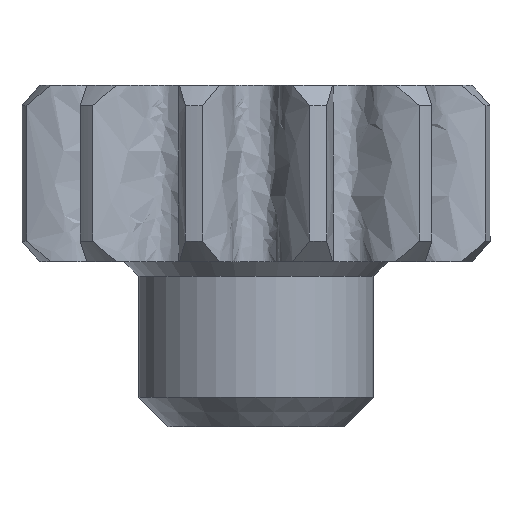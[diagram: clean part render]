
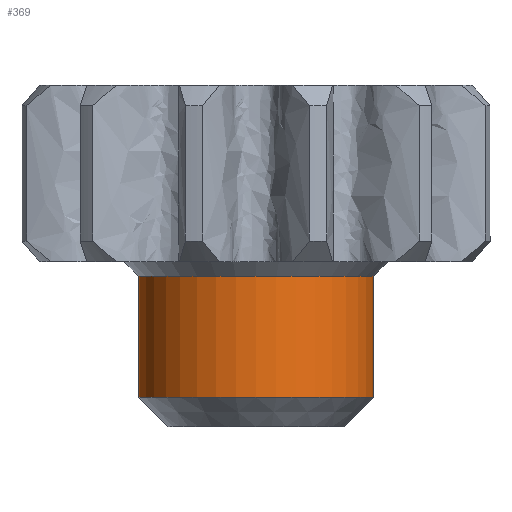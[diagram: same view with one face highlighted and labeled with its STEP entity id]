
A CAD part, front view. The second image highlights one B-rep face of the part: STEP entity #369.
In plain terms, the highlighted cylindrical face has radius 4 mm (diameter 8 mm), a partial arc.
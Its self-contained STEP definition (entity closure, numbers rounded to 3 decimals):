
#317 = AXIS2_PLACEMENT_3D ( 'NONE', #7514, #6473, #5422 ) ;
#334 = CARTESIAN_POINT ( 'NONE',  ( -4., 0., -0.62 ) ) ;
#369 = ADVANCED_FACE ( 'NONE', ( #1009 ), #2297, .T. ) ;
#370 = DIRECTION ( 'NONE',  ( 0., 0., 1. ) ) ;
#999 = ORIENTED_EDGE ( 'NONE', *, *, #6624, .T. ) ;
#1009 = FACE_OUTER_BOUND ( 'NONE', #1160, .T. ) ;
#1076 = CARTESIAN_POINT ( 'NONE',  ( 4., 0., -0.62 ) ) ;
#1160 = EDGE_LOOP ( 'NONE', ( #7147, #999, #2154, #6402 ) ) ;
#1182 = CARTESIAN_POINT ( 'NONE',  ( 0., 0., -0.62 ) ) ;
#1230 = LINE ( 'NONE', #5221, #4335 ) ;
#1265 = AXIS2_PLACEMENT_3D ( 'NONE', #1182, #4743, #2548 ) ;
#1876 = EDGE_CURVE ( 'NONE', #3789, #2325, #6926, .T. ) ;
#2045 = VERTEX_POINT ( 'NONE', #1076 ) ;
#2075 = CARTESIAN_POINT ( 'NONE',  ( 4., 0., -1.62 ) ) ;
#2154 = ORIENTED_EDGE ( 'NONE', *, *, #2693, .T. ) ;
#2250 = DIRECTION ( 'NONE',  ( 0., 0., 1. ) ) ;
#2297 = CYLINDRICAL_SURFACE ( 'NONE', #317, 4. ) ;
#2325 = VERTEX_POINT ( 'NONE', #5699 ) ;
#2548 = DIRECTION ( 'NONE',  ( -1., 0., 0. ) ) ;
#2693 = EDGE_CURVE ( 'NONE', #2045, #3789, #3575, .T. ) ;
#2887 = CIRCLE ( 'NONE', #1265, 4. ) ;
#2939 = CARTESIAN_POINT ( 'NONE',  ( 4., 0., 3.5 ) ) ;
#3575 = LINE ( 'NONE', #2075, #5795 ) ;
#3789 = VERTEX_POINT ( 'NONE', #2939 ) ;
#4186 = CARTESIAN_POINT ( 'NONE',  ( 0., 0., 3.5 ) ) ;
#4335 = VECTOR ( 'NONE', #2250, 1000. ) ;
#4743 = DIRECTION ( 'NONE',  ( 0., 0., 1. ) ) ;
#5147 = AXIS2_PLACEMENT_3D ( 'NONE', #4186, #5302, #5330 ) ;
#5221 = CARTESIAN_POINT ( 'NONE',  ( -4., 0., -1.62 ) ) ;
#5302 = DIRECTION ( 'NONE',  ( 0., 0., -1. ) ) ;
#5330 = DIRECTION ( 'NONE',  ( 1., 0., 0. ) ) ;
#5422 = DIRECTION ( 'NONE',  ( 1., 0., 0. ) ) ;
#5586 = EDGE_CURVE ( 'NONE', #6026, #2325, #1230, .T. ) ;
#5699 = CARTESIAN_POINT ( 'NONE',  ( -4., 0., 3.5 ) ) ;
#5795 = VECTOR ( 'NONE', #370, 1000. ) ;
#6026 = VERTEX_POINT ( 'NONE', #334 ) ;
#6402 = ORIENTED_EDGE ( 'NONE', *, *, #1876, .T. ) ;
#6473 = DIRECTION ( 'NONE',  ( 0., 0., 1. ) ) ;
#6624 = EDGE_CURVE ( 'NONE', #6026, #2045, #2887, .T. ) ;
#6926 = CIRCLE ( 'NONE', #5147, 4. ) ;
#7147 = ORIENTED_EDGE ( 'NONE', *, *, #5586, .F. ) ;
#7514 = CARTESIAN_POINT ( 'NONE',  ( 0., 0., -1.62 ) ) ;
